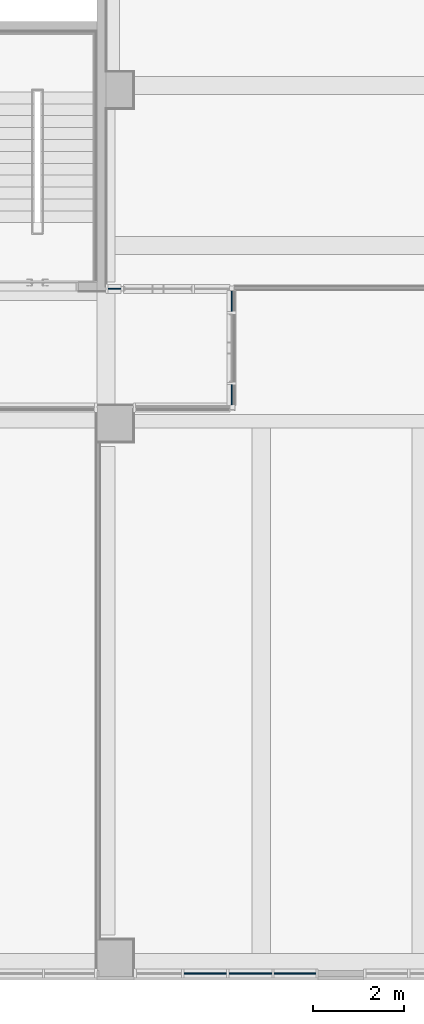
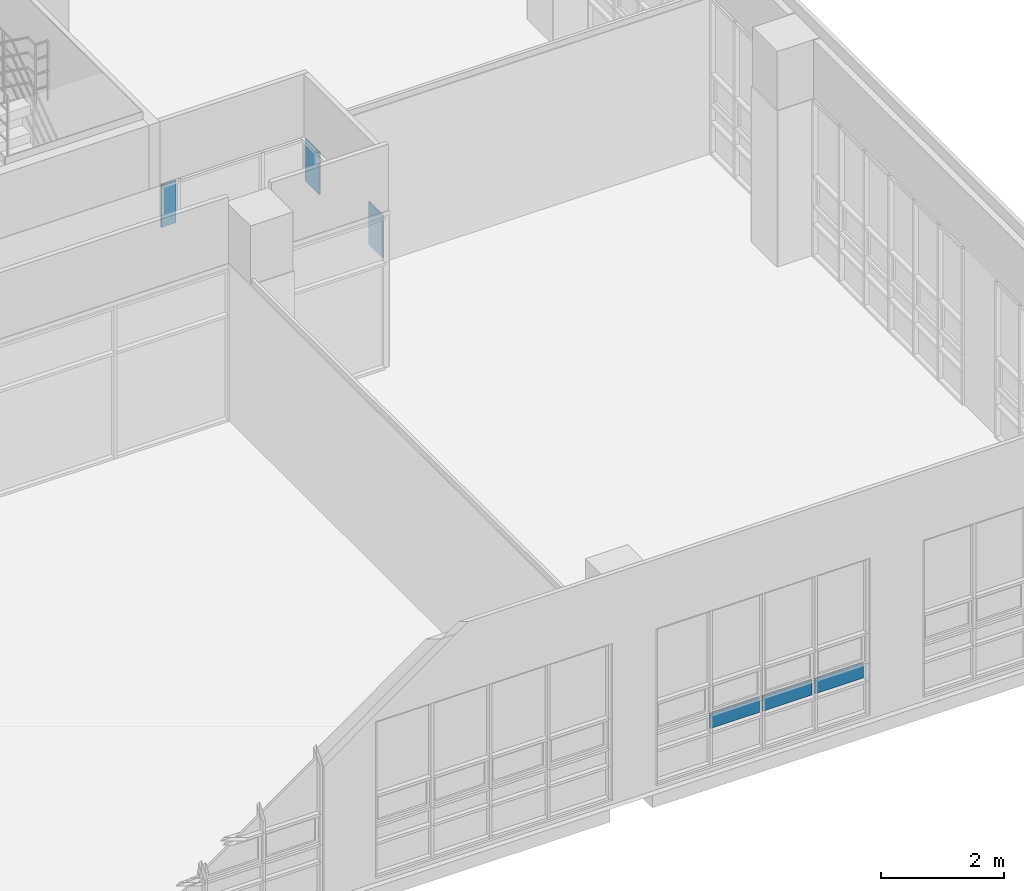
# One storey, part 40 of 74: 6 plates, 3 elements without a shape of their own.
"""IFC2X3 building model written with IfcOpenShell, lengths in millimetres."""

from ifc_helpers import new_model, entity, si_unit, converted_unit, derived_unit, direction, frame, origin, origin_2d_with_axis, place, context, subcontext, project, spatial, rectangle, extrude, source, transform, mapped, material, type_object, type_shapes, element, aggregate, save


model = new_model("IFC2X3")

# Units and contexts
model_context = context("Model", 3, precision=0.01, world=origin(), true_north=direction((6.123031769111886e-17, 1.0)))
body_context = subcontext(model_context, "Body", "Model", "MODEL_VIEW")
ifc_project = project(units=[si_unit("LENGTHUNIT", "METRE", prefix="MILLI"), si_unit("AREAUNIT", "SQUARE_METRE"), si_unit("VOLUMEUNIT", "CUBIC_METRE"), converted_unit("PLANEANGLEUNIT", "DEGREE", entity("IfcRatioMeasure", 0.017453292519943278), si_unit("PLANEANGLEUNIT", "RADIAN"), dimensions=[0, 0, 0, 0, 0, 0, 0]), si_unit("MASSUNIT", "GRAM", prefix="KILO"), derived_unit("MASSDENSITYUNIT", [(si_unit("MASSUNIT", "GRAM", prefix="KILO"), 1), (si_unit("LENGTHUNIT", "METRE"), -3)]), derived_unit("MOMENTOFINERTIAUNIT", [(si_unit("LENGTHUNIT", "METRE"), 4)]), si_unit("TIMEUNIT", "SECOND"), si_unit("FREQUENCYUNIT", "HERTZ"), si_unit("THERMODYNAMICTEMPERATUREUNIT", "DEGREE_CELSIUS"), derived_unit("THERMALTRANSMITTANCEUNIT", [(si_unit("MASSUNIT", "GRAM", prefix="KILO"), 1), (si_unit("THERMODYNAMICTEMPERATUREUNIT", "KELVIN"), -1), (si_unit("TIMEUNIT", "SECOND"), -3)]), derived_unit("VOLUMETRICFLOWRATEUNIT", [(si_unit("LENGTHUNIT", "METRE"), 3), (si_unit("TIMEUNIT", "SECOND"), -1)]), derived_unit("MASSFLOWRATEUNIT", [(si_unit("MASSUNIT", "GRAM", prefix="KILO"), 1), (si_unit("TIMEUNIT", "SECOND"), -1)]), derived_unit("ROTATIONALFREQUENCYUNIT", [(si_unit("TIMEUNIT", "SECOND"), -1)]), si_unit("ELECTRICCURRENTUNIT", "AMPERE"), si_unit("ELECTRICVOLTAGEUNIT", "VOLT"), si_unit("POWERUNIT", "WATT"), si_unit("FORCEUNIT", "NEWTON", prefix="KILO"), si_unit("ILLUMINANCEUNIT", "LUX"), si_unit("LUMINOUSFLUXUNIT", "LUMEN"), si_unit("LUMINOUSINTENSITYUNIT", "CANDELA"), derived_unit("USERDEFINED", [(si_unit("MASSUNIT", "GRAM", prefix="KILO"), -1), (si_unit("LENGTHUNIT", "METRE"), -2), (si_unit("TIMEUNIT", "SECOND"), 3), (si_unit("LUMINOUSFLUXUNIT", "LUMEN"), 1)]), derived_unit("SOUNDPOWERUNIT", [(si_unit("MASSUNIT", "GRAM", prefix="KILO"), 1), (si_unit("LENGTHUNIT", "METRE"), 2), (si_unit("TIMEUNIT", "SECOND"), -3)]), derived_unit("SOUNDPRESSUREUNIT", [(si_unit("MASSUNIT", "GRAM", prefix="KILO"), 1), (si_unit("LENGTHUNIT", "METRE"), -1), (si_unit("TIMEUNIT", "SECOND"), -2)]), derived_unit("LINEARVELOCITYUNIT", [(si_unit("LENGTHUNIT", "METRE"), 1), (si_unit("TIMEUNIT", "SECOND"), -1)]), si_unit("PRESSUREUNIT", "PASCAL"), derived_unit("USERDEFINED", [(si_unit("LENGTHUNIT", "METRE"), -2), (si_unit("MASSUNIT", "GRAM", prefix="KILO"), 1), (si_unit("TIMEUNIT", "SECOND"), -2)]), derived_unit("LINEARFORCEUNIT", [(si_unit("MASSUNIT", "GRAM", prefix="KILO"), 1), (si_unit("LENGTHUNIT", "METRE"), 1), (si_unit("TIMEUNIT", "SECOND"), -2), (si_unit("LENGTHUNIT", "METRE"), -1)]), derived_unit("PLANARFORCEUNIT", [(si_unit("MASSUNIT", "GRAM", prefix="KILO"), 1), (si_unit("LENGTHUNIT", "METRE"), 1), (si_unit("TIMEUNIT", "SECOND"), -2), (si_unit("LENGTHUNIT", "METRE"), -2)])], contexts=[model_context])

# Site, building, storey
site_placement = place(None, frame((-14167.972527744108, -657.2125860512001, 0.0)))
site = spatial("IfcSite", under=ifc_project, at=site_placement, Name="Default", CompositionType="ELEMENT")
building_placement = place(site_placement, origin())
building = spatial("IfcBuilding", under=site, at=building_placement, Name="Sample Building", CompositionType="ELEMENT")
storey_placement = place(building_placement, frame((0.0, 0.0, 4800.0)))
storey = spatial("IfcBuildingStorey", under=building, at=storey_placement, Name="지상 2층", CompositionType="ELEMENT", Elevation=4800.000000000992)

# Curtain wall, plates
curtain_wall_type = type_object("IfcCurtainWallType", Name="커튼월:CW112-스테인리스 스틸 커튼월", PredefinedType="NOTDEFINED")
curtain_wall_1_placement = place(storey_placement, frame((0.0, 0.0, -4800.0)))
curtain_wall_1 = element("IfcCurtainWall", 1, at=curtain_wall_1_placement, inside=storey, type_object=curtain_wall_type, Name="커튼월:CW112-스테인리스 스틸 커튼월", ObjectType="커튼월:CW112-스테인리스 스틸 커튼월")
ifc_material = material(Name="KBIMS-로이유리(코팅)")
plate_type_1 = type_object("IfcPlateType", Name="CW300-THK24.Low-e coating glass:CW300-THK24.Low-e coating glass", PredefinedType="CURTAIN_PANEL", material=ifc_material)
shared_shape_1 = source(origin(), body_context, "Body", "SweptSolid", [
    extrude(rectangle(XDim=937.4999999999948, YDim=24.000000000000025, at=origin_2d_with_axis()), frame((0.0, 0.0, 0.0), z_axis=(0.0, 0.0, 1.0), x_axis=(-1.0, 0.0, 0.0)), (0.0, 0.0, 1.0), 299.99999999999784),
])
type_shapes(plate_type_1, [shared_shape_1])
plate_1_placement = place(curtain_wall_1_placement, frame((43143.32127232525, 619.7122951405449, 5555.0)))
plate_1 = element("IfcPlate", 2, at=plate_1_placement, type_object=plate_type_1, material=ifc_material, Name="CW300-THK24.Low-e coating glass:CW300-THK24.Low-e coating glass", ObjectType="CW300-THK24.Low-e coating glass:CW300-THK24.Low-e coating glass", context=body_context, shape_type="MappedRepresentation", body=[
    mapped(shared_shape_1, transform((0.0, 0.0, 0.0), scale=1.0)),
])
plate_2_placement = place(curtain_wall_1_placement, frame((44130.82127232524, 619.7122951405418, 5555.0)))
plate_2 = element("IfcPlate", 3, at=plate_2_placement, type_object=plate_type_1, material=ifc_material, Name="CW300-THK24.Low-e coating glass:CW300-THK24.Low-e coating glass", ObjectType="CW300-THK24.Low-e coating glass:CW300-THK24.Low-e coating glass", context=body_context, shape_type="MappedRepresentation", body=[
    mapped(shared_shape_1, transform((0.0, 0.0, 0.0), scale=1.0)),
])
plate_type_2 = type_object("IfcPlateType", Name="CW300-THK24.Low-e coating glass:CW300-THK24.Low-e coating glass", PredefinedType="CURTAIN_PANEL", material=ifc_material)
shared_shape_2 = source(origin(), body_context, "Body", "SweptSolid", [
    extrude(rectangle(XDim=912.5000000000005, YDim=24.000000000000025, at=origin_2d_with_axis()), frame((0.0, 0.0, 0.0), z_axis=(0.0, 0.0, 1.0), x_axis=(-1.0, 0.0, 0.0)), (0.0, 0.0, 1.0), 299.99999999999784),
])
type_shapes(plate_type_2, [shared_shape_2])
plate_3_placement = place(curtain_wall_1_placement, frame((45105.82127232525, 619.7122951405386, 5555.0)))
plate_3 = element("IfcPlate", 4, at=plate_3_placement, type_object=plate_type_2, material=ifc_material, Name="CW300-THK24.Low-e coating glass:CW300-THK24.Low-e coating glass", ObjectType="CW300-THK24.Low-e coating glass:CW300-THK24.Low-e coating glass", context=body_context, shape_type="MappedRepresentation", body=[
    mapped(shared_shape_2, transform((0.0, 0.0, 0.0), scale=1.0)),
])
aggregate(curtain_wall_1, [plate_1, plate_2, plate_3])

curtain_wall_2_placement = place(storey_placement, frame((0.0, 0.0, -4800.0)))
curtain_wall_2 = element("IfcCurtainWall", 5, at=curtain_wall_2_placement, inside=storey, type_object=curtain_wall_type, Name="커튼월:CW112-스테인리스 스틸 커튼월", ObjectType="커튼월:CW112-스테인리스 스틸 커튼월")
plate_type_3 = type_object("IfcPlateType", Name="CW300-THK24.Low-e coating glass:CW300-THK24.Low-e coating glass", PredefinedType="CURTAIN_PANEL", material=ifc_material)
shared_shape_3 = source(origin(), body_context, "Body", "SweptSolid", [
    extrude(rectangle(XDim=462.98279961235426, YDim=24.000000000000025, at=origin_2d_with_axis()), frame((0.0, 0.0, 0.0), z_axis=(0.0, 0.0, 1.0), x_axis=(-1.0, 0.0, 0.0)), (0.0, 0.0, 1.0), 845.0000000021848),
])
type_shapes(plate_type_3, [shared_shape_3])
plate_4_placement = place(curtain_wall_2_placement, frame((43717.972491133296, 13280.686278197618, 7005.0), z_axis=(0.0, 0.0, 1.0), x_axis=(0.0, 1.0, 0.0)))
plate_4 = element("IfcPlate", 6, at=plate_4_placement, type_object=plate_type_3, material=ifc_material, Name="CW300-THK24.Low-e coating glass:CW300-THK24.Low-e coating glass", ObjectType="CW300-THK24.Low-e coating glass:CW300-THK24.Low-e coating glass", context=body_context, shape_type="MappedRepresentation", body=[
    mapped(shared_shape_3, transform((0.0, 0.0, 0.0), scale=1.0)),
])
plate_type_4 = type_object("IfcPlateType", Name="CW300-THK24.Low-e coating glass:CW300-THK24.Low-e coating glass", PredefinedType="CURTAIN_PANEL", material=ifc_material)
shared_shape_4 = source(origin(), body_context, "Body", "SweptSolid", [
    extrude(rectangle(XDim=457.99999999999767, YDim=24.000000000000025, at=origin_2d_with_axis()), frame((0.0, 0.0, 0.0), z_axis=(0.0, 0.0, 1.0), x_axis=(-1.0, 0.0, 0.0)), (0.0, 0.0, 1.0), 845.0000000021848),
])
type_shapes(plate_type_4, [shared_shape_4])
plate_5_placement = place(curtain_wall_2_placement, frame((43717.972491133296, 15341.177678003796, 7005.0), z_axis=(0.0, 0.0, 1.0), x_axis=(0.0, 1.0, 0.0)))
plate_5 = element("IfcPlate", 7, at=plate_5_placement, type_object=plate_type_4, material=ifc_material, Name="CW300-THK24.Low-e coating glass:CW300-THK24.Low-e coating glass", ObjectType="CW300-THK24.Low-e coating glass:CW300-THK24.Low-e coating glass", context=body_context, shape_type="MappedRepresentation", body=[
    mapped(shared_shape_4, transform((0.0, 0.0, 0.0), scale=1.0)),
])
aggregate(curtain_wall_2, [plate_4, plate_5])

# Curtain wall, plate
curtain_wall_3_placement = place(storey_placement, frame((0.0, 0.0, -4800.0)))
curtain_wall_3 = element("IfcCurtainWall", 8, at=curtain_wall_3_placement, inside=storey, type_object=curtain_wall_type, Name="커튼월:CW112-스테인리스 스틸 커튼월", ObjectType="커튼월:CW112-스테인리스 스틸 커튼월")
plate_type_5 = type_object("IfcPlateType", Name="CW300-THK24.Low-e coating glass:CW300-THK24.Low-e coating glass", PredefinedType="CURTAIN_PANEL", material=ifc_material)
shared_shape_5 = source(origin(), body_context, "Body", "SweptSolid", [
    extrude(rectangle(XDim=24.000000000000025, YDim=280.0086929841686, at=origin_2d_with_axis()), frame((0.0, 0.0, 0.0), z_axis=(0.0, 0.0, 1.0), x_axis=(0.0, 1.0, 0.0)), (0.0, 0.0, 1.0), 845.0000000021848),
])
type_shapes(plate_type_5, [shared_shape_5])
plate_6_placement = place(curtain_wall_3_placement, frame((41157.968144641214, 15607.177678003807, 7005.0), z_axis=(0.0, 0.0, 1.0), x_axis=(-1.0, 0.0, 0.0)))
plate_6 = element("IfcPlate", 9, at=plate_6_placement, type_object=plate_type_5, material=ifc_material, Name="CW300-THK24.Low-e coating glass:CW300-THK24.Low-e coating glass", ObjectType="CW300-THK24.Low-e coating glass:CW300-THK24.Low-e coating glass", context=body_context, shape_type="MappedRepresentation", body=[
    mapped(shared_shape_5, transform((0.0, 0.0, 0.0), scale=1.0)),
])
aggregate(curtain_wall_3, [plate_6])

save(model, "model.ifc")
